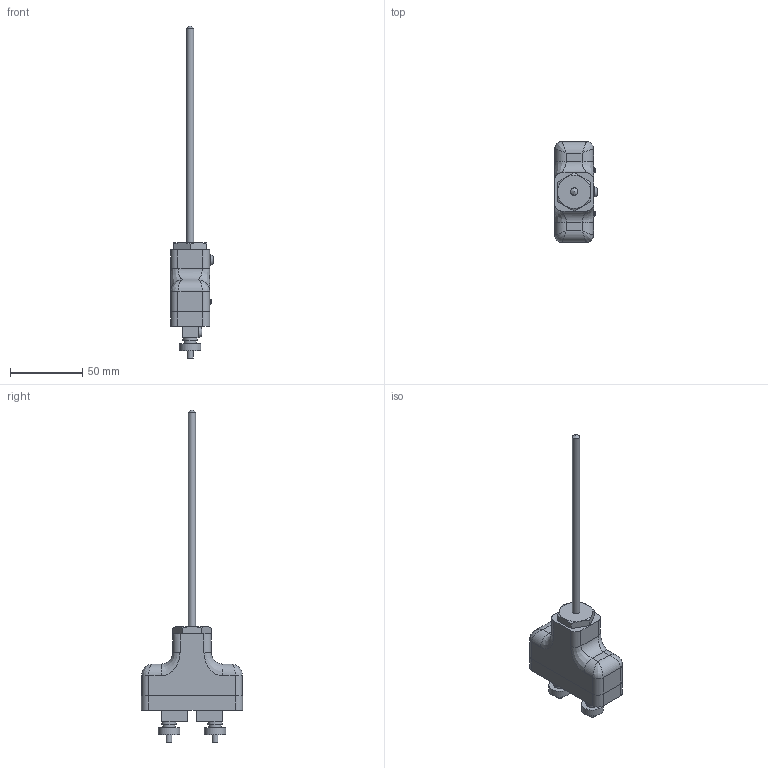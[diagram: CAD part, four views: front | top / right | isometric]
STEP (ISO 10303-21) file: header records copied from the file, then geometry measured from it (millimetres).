
FILE_DESCRIPTION (( 'STEP AP203' ), '1' );
FILE_NAME ('YIT85-2(0).step', '2025-08-26T07:24:27', ( '' ), ( '' ), 'SwSTEP 2.0', 'SolidWorks 2024', '' );
FILE_SCHEMA (( 'CONFIG_CONTROL_DESIGN' ));
Length unit declared in the file: millimetre
Products named in the file (1): YIT85-2(0)
Bounding box: 29.55 x 70 x 230 mm (x, y, z)
Volume: 84526.4 mm3; surface area: 18334 mm2
Topology: 10 solids, 10 shells, 251 faces, 589 edges, 382 vertices
Faces by surface type: plane 180, cylinder 54, bspline 8, torus 7, cone 2
Full cylindrical faces by diameter (mm): 1.5 x2, 2 x2, 3 x1, 3.5 x2, 4 x11, 5 x1, 7 x7, 8.5 x2, 10 x2, 11 x1, 12 x1, 15 x2
Entity records: 7521 total; most frequent: CARTESIAN_POINT 2096, ORIENTED_EDGE 1054, DIRECTION 1040, EDGE_CURVE 527, VERTEX_POINT 367, AXIS2_PLACEMENT_3D 357, LINE 326, VECTOR 326
